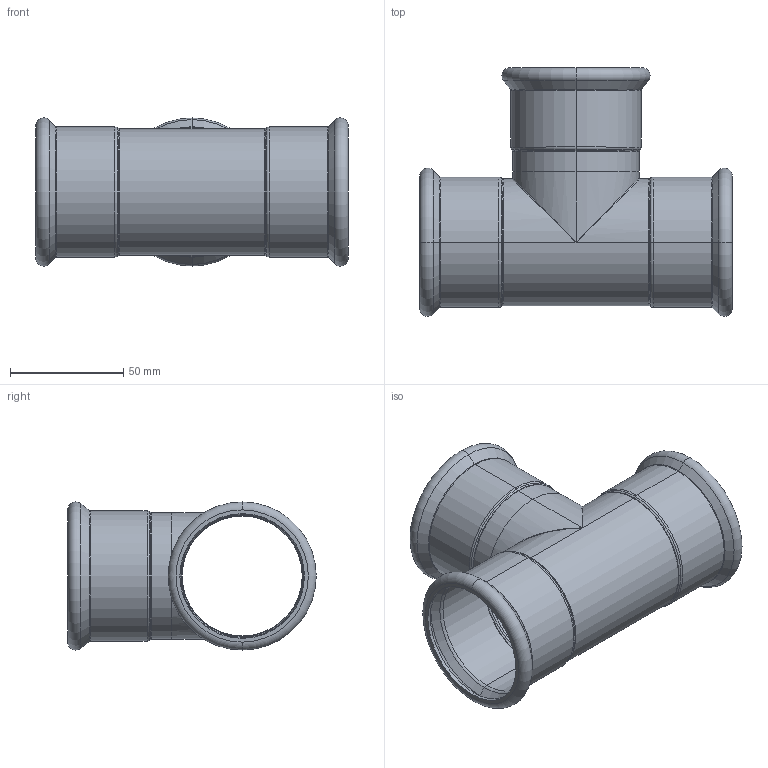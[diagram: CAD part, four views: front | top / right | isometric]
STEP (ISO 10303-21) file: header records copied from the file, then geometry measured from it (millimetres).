
FILE_DESCRIPTION (( 'STEP AP203' ), '1' );
FILE_NAME ('GDA5187.STEP', '2019-01-14T01:53:54', ( '' ), ( '' ), 'SwSTEP 2.0', 'SolidWorks 2015', '' );
FILE_SCHEMA (( 'CONFIG_CONTROL_DESIGN' ));
Length unit declared in the file: millimetre
Products named in the file (3): GDA5187; T-ｉ-01-54; T(R)-¢ñ-54¡Á54''
Assembly tree (2 placements, depth 2):
  GDA5187
    T(R)-¢ñ-54¡Á54''
    T-ｉ-01-54
Bounding box: 138 x 109.69 x 65.4 mm (x, y, z)
Volume: 51051.8 mm3; surface area: 69359.2 mm2
Topology: 2 solids, 2 shells, 115 faces, 235 edges, 120 vertices
Faces by surface type: torus 48, cylinder 32, cone 24, plane 8, bspline 3
Entity records: 3551 total; most frequent: CARTESIAN_POINT 793, DIRECTION 620, ORIENTED_EDGE 458, AXIS2_PLACEMENT_3D 281, EDGE_CURVE 229, CIRCLE 164, EDGE_LOOP 123, VERTEX_POINT 120
